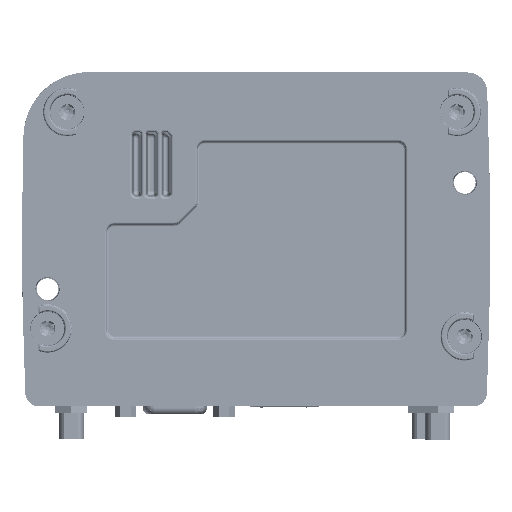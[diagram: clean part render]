
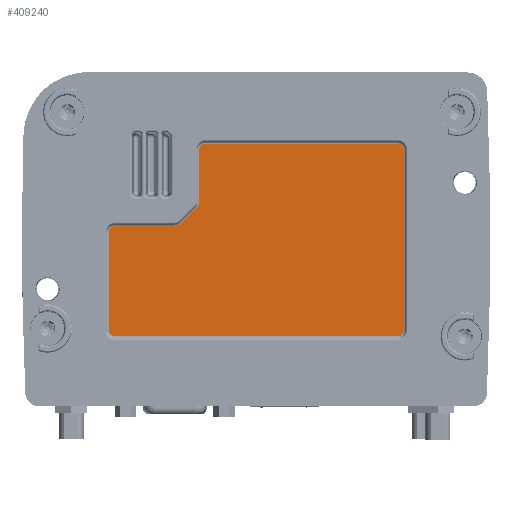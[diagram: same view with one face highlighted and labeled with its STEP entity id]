
A CAD part, front view. The second image highlights one B-rep face of the part: STEP entity #409240.
In plain terms, the highlighted planar face has unit normal (0, -1, 0).
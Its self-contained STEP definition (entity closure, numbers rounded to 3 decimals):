
#381180=DIRECTION('',(0.,0.,1.));
#381181=VECTOR('',#381180,13.184);
#381182=CARTESIAN_POINT('',(-14.473,-19.2,
13.816));
#381183=LINE('',#381182,#381181);
#381187=CARTESIAN_POINT('',(-13.,-19.2,27.));
#381188=DIRECTION('',(0.,1.,0.));
#381189=DIRECTION('',(-1.,0.,0.));
#381190=AXIS2_PLACEMENT_3D('',#381187,#381188,#381189);
#381195=DIRECTION('',(1.,0.,0.));
#381196=VECTOR('',#381195,49.);
#381197=CARTESIAN_POINT('',(-13.,-19.2,28.473));
#381198=LINE('',#381197,#381196);
#381202=CARTESIAN_POINT('',(36.,-19.2,27.));
#381203=DIRECTION('',(0.,1.,0.));
#381204=DIRECTION('',(0.,0.,1.));
#381205=AXIS2_PLACEMENT_3D('',#381202,#381203,#381204);
#381210=DIRECTION('',(0.,0.,-1.));
#381211=VECTOR('',#381210,46.);
#381212=CARTESIAN_POINT('',(37.473,-19.2,27.));
#381213=LINE('',#381212,#381211);
#381217=CARTESIAN_POINT('',(36.,-19.2,-19.));
#381218=DIRECTION('',(0.,1.,0.));
#381219=DIRECTION('',(1.,0.,0.));
#381220=AXIS2_PLACEMENT_3D('',#381217,#381218,#381219);
#381225=DIRECTION('',(-1.,0.,0.));
#381226=VECTOR('',#381225,72.);
#381227=CARTESIAN_POINT('',(36.,-19.2,-20.473));
#381228=LINE('',#381227,#381226);
#381232=CARTESIAN_POINT('',(-36.,-19.2,-19.));
#381233=DIRECTION('',(0.,1.,0.));
#381234=DIRECTION('',(0.,0.,-1.));
#381235=AXIS2_PLACEMENT_3D('',#381232,#381233,#381234);
#381240=DIRECTION('',(0.,0.,1.));
#381241=VECTOR('',#381240,25.);
#381242=CARTESIAN_POINT('',(-37.473,-19.2,-19.));
#381243=LINE('',#381242,#381241);
#381247=CARTESIAN_POINT('',(-36.,-19.2,6.));
#381248=DIRECTION('',(0.,1.,0.));
#381249=DIRECTION('',(-1.,0.,0.));
#381250=AXIS2_PLACEMENT_3D('',#381247,#381248,#381249);
#381255=DIRECTION('',(1.,0.,0.));
#381256=VECTOR('',#381255,15.184);
#381257=CARTESIAN_POINT('',(-36.,-19.2,7.473));
#381258=LINE('',#381257,#381256);
#381262=CARTESIAN_POINT('',(-20.816,-19.2,
7.473));
#381263=CARTESIAN_POINT('',(-20.757,-19.2,
7.473));
#381264=CARTESIAN_POINT('',(-20.639,-19.2,
7.477));
#381265=CARTESIAN_POINT('',(-20.461,-19.2,
7.496));
#381266=CARTESIAN_POINT('',(-20.285,-19.2,
7.528));
#381267=CARTESIAN_POINT('',(-20.112,-19.2,
7.572));
#381268=CARTESIAN_POINT('',(-19.943,-19.2,
7.629));
#381269=CARTESIAN_POINT('',(-19.778,-19.2,
7.697));
#381270=CARTESIAN_POINT('',(-19.618,-19.2,
7.777));
#381271=CARTESIAN_POINT('',(-19.464,-19.2,
7.868));
#381272=CARTESIAN_POINT('',(-19.318,-19.2,
7.97));
#381273=CARTESIAN_POINT('',(-19.179,-19.2,
8.082));
#381274=CARTESIAN_POINT('',(-19.092,-19.2,
8.163));
#381275=CARTESIAN_POINT('',(-19.051,-19.2,
8.204));
#381280=DIRECTION('',(0.707,0.,0.707));
#381281=VECTOR('',#381280,5.439);
#381282=CARTESIAN_POINT('',(-19.051,-19.2,
8.204));
#381283=LINE('',#381282,#381281);
#381287=CARTESIAN_POINT('',(-15.204,-19.2,
12.051));
#381288=CARTESIAN_POINT('',(-15.163,-19.2,
12.092));
#381289=CARTESIAN_POINT('',(-15.082,-19.2,
12.179));
#381290=CARTESIAN_POINT('',(-14.97,-19.2,
12.317));
#381291=CARTESIAN_POINT('',(-14.868,-19.2,
12.464));
#381292=CARTESIAN_POINT('',(-14.777,-19.2,
12.618));
#381293=CARTESIAN_POINT('',(-14.697,-19.2,
12.778));
#381294=CARTESIAN_POINT('',(-14.629,-19.2,
12.943));
#381295=CARTESIAN_POINT('',(-14.572,-19.2,
13.112));
#381296=CARTESIAN_POINT('',(-14.528,-19.2,
13.285));
#381297=CARTESIAN_POINT('',(-14.496,-19.2,
13.461));
#381298=CARTESIAN_POINT('',(-14.477,-19.2,
13.639));
#381299=CARTESIAN_POINT('',(-14.473,-19.2,
13.757));
#381300=CARTESIAN_POINT('',(-14.473,-19.2,
13.816));
#404684=CARTESIAN_POINT('',(-14.473,-19.2,
13.816));
#404685=CARTESIAN_POINT('',(-14.473,-19.2,27.));
#404686=VERTEX_POINT('',#404684);
#404687=VERTEX_POINT('',#404685);
#404692=CARTESIAN_POINT('',(-13.,-19.2,28.473));
#404693=VERTEX_POINT('',#404692);
#404696=CARTESIAN_POINT('',(36.,-19.2,28.473));
#404697=VERTEX_POINT('',#404696);
#404700=CARTESIAN_POINT('',(37.473,-19.2,27.));
#404701=VERTEX_POINT('',#404700);
#404704=CARTESIAN_POINT('',(37.473,-19.2,-19.));
#404705=VERTEX_POINT('',#404704);
#404708=CARTESIAN_POINT('',(36.,-19.2,-20.473));
#404709=VERTEX_POINT('',#404708);
#404712=CARTESIAN_POINT('',(-36.,-19.2,-20.473));
#404713=VERTEX_POINT('',#404712);
#404820=CARTESIAN_POINT('',(-36.,-19.2,7.473));
#404821=CARTESIAN_POINT('',(-20.816,-19.2,
7.473));
#404822=VERTEX_POINT('',#404820);
#404823=VERTEX_POINT('',#404821);
#404828=CARTESIAN_POINT('',(-37.473,-19.2,6.));
#404829=VERTEX_POINT('',#404828);
#404832=CARTESIAN_POINT('',(-37.473,-19.2,-19.));
#404833=VERTEX_POINT('',#404832);
#404840=CARTESIAN_POINT('',(-19.051,-19.2,
8.204));
#404841=CARTESIAN_POINT('',(-15.204,-19.2,
12.051));
#404842=VERTEX_POINT('',#404840);
#404843=VERTEX_POINT('',#404841);
#409206=CARTESIAN_POINT('',(0.,-19.2,0.));
#409207=DIRECTION('',(0.,-1.,0.));
#409208=DIRECTION('',(1.,0.,0.));
#409209=AXIS2_PLACEMENT_3D('',#409206,#409207,#409208);
#409210=PLANE('',#409209);
#409212=ORIENTED_EDGE('',*,*,#409211,.T.);
#409214=ORIENTED_EDGE('',*,*,#409213,.T.);
#409216=ORIENTED_EDGE('',*,*,#409215,.T.);
#409218=ORIENTED_EDGE('',*,*,#409217,.T.);
#409220=ORIENTED_EDGE('',*,*,#409219,.T.);
#409222=ORIENTED_EDGE('',*,*,#409221,.T.);
#409224=ORIENTED_EDGE('',*,*,#409223,.T.);
#409226=ORIENTED_EDGE('',*,*,#409225,.T.);
#409228=ORIENTED_EDGE('',*,*,#409227,.T.);
#409229=ORIENTED_EDGE('',*,*,#409196,.T.);
#409231=ORIENTED_EDGE('',*,*,#409230,.T.);
#409233=ORIENTED_EDGE('',*,*,#409232,.T.);
#409235=ORIENTED_EDGE('',*,*,#409234,.T.);
#409237=ORIENTED_EDGE('',*,*,#409236,.T.);
#409238=EDGE_LOOP('',(#409212,#409214,#409216,#409218,#409220,#409222,#409224,
#409226,#409228,#409229,#409231,#409233,#409235,#409237));
#409239=FACE_OUTER_BOUND('',#409238,.F.);
#381191=CIRCLE('',#381190,1.473);
#381206=CIRCLE('',#381205,1.473);
#381221=CIRCLE('',#381220,1.473);
#381236=CIRCLE('',#381235,1.473);
#381251=CIRCLE('',#381250,1.473);
#381276=B_SPLINE_CURVE_WITH_KNOTS('',3,(#381262,#381263,#381264,#381265,#381266,
#381267,#381268,#381269,#381270,#381271,#381272,#381273,#381274,#381275),
.UNSPECIFIED.,.F.,.F.,(4,1,1,1,1,1,1,1,1,1,1,4),(0.,0.091,
0.182,0.273,0.364,0.455,
0.545,0.636,0.727,0.818,
0.909,1.),.UNSPECIFIED.);
#381301=B_SPLINE_CURVE_WITH_KNOTS('',3,(#381287,#381288,#381289,#381290,#381291,
#381292,#381293,#381294,#381295,#381296,#381297,#381298,#381299,#381300),
.UNSPECIFIED.,.F.,.F.,(4,1,1,1,1,1,1,1,1,1,1,4),(0.,0.091,
0.182,0.273,0.364,0.455,
0.545,0.636,0.727,0.818,
0.909,1.),.UNSPECIFIED.);
#409196=EDGE_CURVE('',#404829,#404822,#381251,.T.);
#409211=EDGE_CURVE('',#404686,#404687,#381183,.T.);
#409213=EDGE_CURVE('',#404687,#404693,#381191,.T.);
#409215=EDGE_CURVE('',#404693,#404697,#381198,.T.);
#409217=EDGE_CURVE('',#404697,#404701,#381206,.T.);
#409219=EDGE_CURVE('',#404701,#404705,#381213,.T.);
#409221=EDGE_CURVE('',#404705,#404709,#381221,.T.);
#409223=EDGE_CURVE('',#404709,#404713,#381228,.T.);
#409225=EDGE_CURVE('',#404713,#404833,#381236,.T.);
#409227=EDGE_CURVE('',#404833,#404829,#381243,.T.);
#409230=EDGE_CURVE('',#404822,#404823,#381258,.T.);
#409232=EDGE_CURVE('',#404823,#404842,#381276,.T.);
#409234=EDGE_CURVE('',#404842,#404843,#381283,.T.);
#409236=EDGE_CURVE('',#404843,#404686,#381301,.T.);
#409240=ADVANCED_FACE('',(#409239),#409210,.T.);
